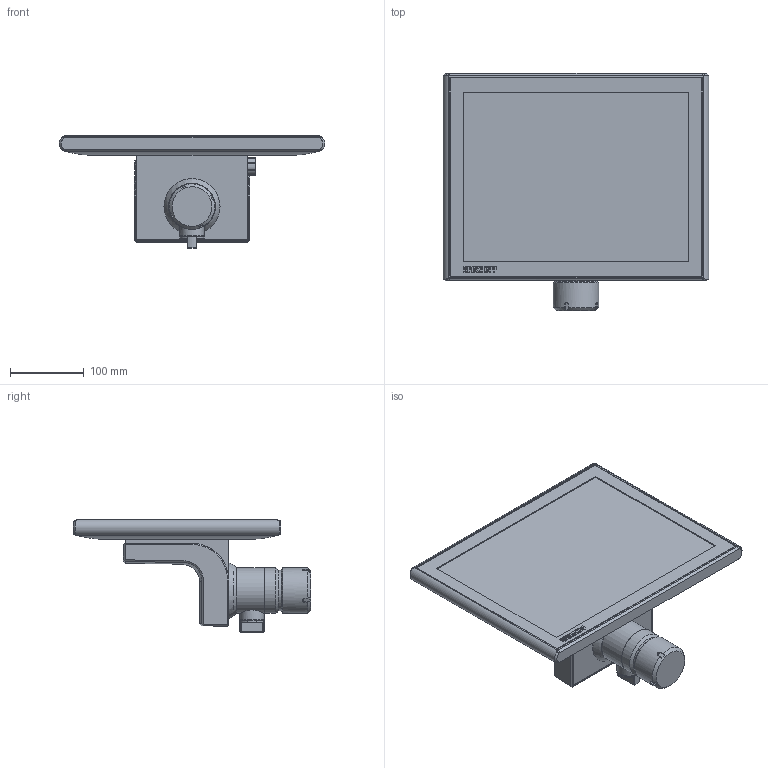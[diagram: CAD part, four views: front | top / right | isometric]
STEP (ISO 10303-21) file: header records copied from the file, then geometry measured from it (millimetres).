
FILE_DESCRIPTION(/* description */ (''),/* implementation_level */ '2;1');
FILE_NAME(/* name */ 'X:\0-inventor\0-3d-Teile\PC-Compo\solids\CP3xxx\0-Ausgabe\CP3915-M751-E274.stp',/* time_stamp */ '2019-01-28T14:02:19+01:00',/* author */ ('ChristianKreuzer'),/* organization */ ('Design-AG'),/* preprocessor_version */ 'ST-DEVELOPER v17',/* originating_system */ 'Autodesk Inventor 2018',/* authorisation */ '');
FILE_SCHEMA (('CONFIG_CONTROL_DESIGN'));
Length unit declared in the file: millimetre
Products named in the file (1): CP3915-M751-E274-Step
Bounding box: 360.82 x 322.75 x 152.34 mm (x, y, z)
Volume: 3707746.5 mm3; surface area: 451121.1 mm2
Topology: 5 solids, 6 shells, 495 faces, 1256 edges, 793 vertices
Faces by surface type: plane 218, cylinder 134, bspline 90, cone 49, sphere 2, torus 2
Full cylindrical faces by diameter (mm): 4.917 x1, 33 x1, 55 x1, 62 x3
Entity records: 19697 total; most frequent: CARTESIAN_POINT 7741, ORIENTED_EDGE 2512, DIRECTION 2116, EDGE_CURVE 1256, VERTEX_POINT 793, LINE 712, VECTOR 712, AXIS2_PLACEMENT_3D 702
